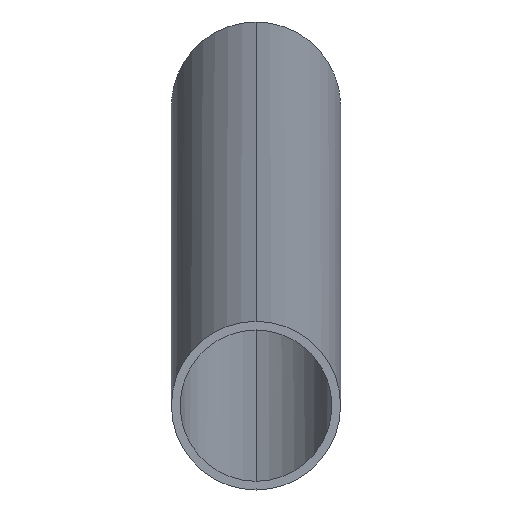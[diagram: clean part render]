
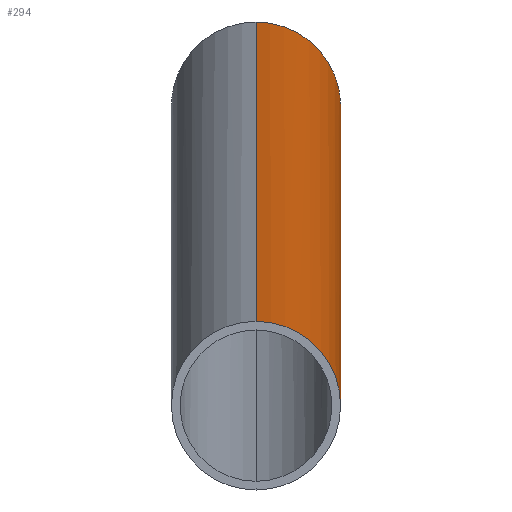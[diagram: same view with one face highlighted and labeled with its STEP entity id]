
A CAD part, top view. The second image highlights one B-rep face of the part: STEP entity #294.
In plain terms, the highlighted cylindrical face has radius 24.15 mm (diameter 48.3 mm), a partial arc.
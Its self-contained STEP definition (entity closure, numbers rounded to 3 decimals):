
#18 = CARTESIAN_POINT ( 'NONE',  ( 2845., 0., 2408.937 ) ) ;
#28 = ORIENTED_EDGE ( 'NONE', *, *, #274, .T. ) ;
#43 = EDGE_LOOP ( 'NONE', ( #333, #84, #529, #351, #28, #447, #81 ) ) ;
#45 = EDGE_CURVE ( 'NONE', #362, #106, #429, .T. ) ;
#47 = B_SPLINE_CURVE_WITH_KNOTS ( 'NONE', 3,
 ( #390, #61, #468, #104, #268, #430, #56, #515, #350, #343, #507, #140, #261, #67, #143, #228 ),
 .UNSPECIFIED., .F., .F.,
 ( 4, 2, 2, 2, 2, 2, 2, 4 ),
 ( 0.008, 0.01, 0.011, 0.012, 0.013, 0.014, 0.015, 0.016 ),
 .UNSPECIFIED. ) ;
#56 = CARTESIAN_POINT ( 'NONE',  ( 2868.899, 3.15, 2412.832 ) ) ;
#58 = DIRECTION ( 'NONE',  ( 0., 0.087, -0.996 ) ) ;
#60 = CARTESIAN_POINT ( 'NONE',  ( 2845., -24.058, 2406.832 ) ) ;
#61 = CARTESIAN_POINT ( 'NONE',  ( 2869.135, 0.623, 2413.937 ) ) ;
#67 = CARTESIAN_POINT ( 'NONE',  ( 2868.633, 4.897, 2409.994 ) ) ;
#81 = ORIENTED_EDGE ( 'NONE', *, *, #124, .F. ) ;
#84 = ORIENTED_EDGE ( 'NONE', *, *, #45, .T. ) ;
#85 = CARTESIAN_POINT ( 'NONE',  ( 2868.74, -4.622, 2410.875 ) ) ;
#86 = VERTEX_POINT ( 'NONE', #137 ) ;
#97 = LINE ( 'NONE', #425, #243 ) ;
#98 = CARTESIAN_POINT ( 'NONE',  ( 2868.627, -4.981, 2408.501 ) ) ;
#100 = CARTESIAN_POINT ( 'NONE',  ( 2868.999, -3.054, 2412.9 ) ) ;
#103 = DIRECTION ( 'NONE',  ( 0., 0.996, 0.087 ) ) ;
#104 = CARTESIAN_POINT ( 'NONE',  ( 2869.023, 2.104, 2413.483 ) ) ;
#105 = CIRCLE ( 'NONE', #317, 24.15 ) ;
#106 = VERTEX_POINT ( 'NONE', #60 ) ;
#120 = AXIS2_PLACEMENT_3D ( 'NONE', #127, #202, #534 ) ;
#124 = EDGE_CURVE ( 'NONE', #187, #86, #97, .T. ) ;
#127 = CARTESIAN_POINT ( 'NONE',  ( 2845., 0., 2408.937 ) ) ;
#133 = CARTESIAN_POINT ( 'NONE',  ( 2868.771, -4.478, 2411.187 ) ) ;
#137 = CARTESIAN_POINT ( 'NONE',  ( 2845., 24.058, 2411.042 ) ) ;
#140 = CARTESIAN_POINT ( 'NONE',  ( 2868.674, 4.619, 2410.877 ) ) ;
#143 = CARTESIAN_POINT ( 'NONE',  ( 2868.627, 4.954, 2409.684 ) ) ;
#147 = CARTESIAN_POINT ( 'NONE',  ( 2869.118, -1.703, 2413.651 ) ) ;
#176 = EDGE_CURVE ( 'NONE', #86, #239, #370, .T. ) ;
#180 = CARTESIAN_POINT ( 'NONE',  ( 2868.948, -3.448, 2412.562 ) ) ;
#182 = CARTESIAN_POINT ( 'NONE',  ( 2869.151, -0.692, 2413.901 ) ) ;
#184 = CARTESIAN_POINT ( 'NONE',  ( 2869.152, -0.349, 2413.937 ) ) ;
#187 = VERTEX_POINT ( 'NONE', #536 ) ;
#188 = DIRECTION ( 'NONE',  ( 0., 0.087, -0.996 ) ) ;
#194 = CARTESIAN_POINT ( 'NONE',  ( 2845., -111.214, 3403.027 ) ) ;
#202 = DIRECTION ( 'NONE',  ( 0., 0.087, -0.996 ) ) ;
#204 = CARTESIAN_POINT ( 'NONE',  ( 2868.877, -3.912, 2412.056 ) ) ;
#214 = CARTESIAN_POINT ( 'NONE',  ( 2845., -87.156, 3405.132 ) ) ;
#220 = EDGE_CURVE ( 'NONE', #254, #452, #378, .T. ) ;
#221 = CARTESIAN_POINT ( 'NONE',  ( 2868.627, 4.981, 2409.373 ) ) ;
#228 = CARTESIAN_POINT ( 'NONE',  ( 2868.627, 4.981, 2409.373 ) ) ;
#239 = VERTEX_POINT ( 'NONE', #221 ) ;
#243 = VECTOR ( 'NONE', #58, 1000. ) ;
#250 = CARTESIAN_POINT ( 'NONE',  ( 2868.634, -5.005, 2409.195 ) ) ;
#254 = VERTEX_POINT ( 'NONE', #98 ) ;
#261 = CARTESIAN_POINT ( 'NONE',  ( 2868.657, 4.729, 2410.59 ) ) ;
#262 = DIRECTION ( 'NONE',  ( 0., 0.087, -0.996 ) ) ;
#264 = CARTESIAN_POINT ( 'NONE',  ( 2869.146, 0., 2413.937 ) ) ;
#268 = CARTESIAN_POINT ( 'NONE',  ( 2868.994, 2.379, 2413.345 ) ) ;
#274 = EDGE_CURVE ( 'NONE', #452, #239, #47, .T. ) ;
#276 = CIRCLE ( 'NONE', #526, 24.15 ) ;
#294 = ADVANCED_FACE ( 'NONE', ( #347 ), #398, .T. ) ;
#297 = CARTESIAN_POINT ( 'NONE',  ( 2845., -111.214, 3403.027 ) ) ;
#306 = CARTESIAN_POINT ( 'NONE',  ( 2869.074, -2.334, 2413.372 ) ) ;
#317 = AXIS2_PLACEMENT_3D ( 'NONE', #18, #510, #103 ) ;
#329 = EDGE_CURVE ( 'NONE', #254, #106, #105, .T. ) ;
#333 = ORIENTED_EDGE ( 'NONE', *, *, #505, .T. ) ;
#341 = CARTESIAN_POINT ( 'NONE',  ( 2869.134, -1.367, 2413.759 ) ) ;
#343 = CARTESIAN_POINT ( 'NONE',  ( 2868.745, 4.181, 2411.697 ) ) ;
#347 = FACE_OUTER_BOUND ( 'NONE', #43, .T. ) ;
#350 = CARTESIAN_POINT ( 'NONE',  ( 2868.804, 3.811, 2412.189 ) ) ;
#351 = ORIENTED_EDGE ( 'NONE', *, *, #220, .T. ) ;
#353 = AXIS2_PLACEMENT_3D ( 'NONE', #466, #188, #424 ) ;
#362 = VERTEX_POINT ( 'NONE', #194 ) ;
#370 = CIRCLE ( 'NONE', #120, 24.15 ) ;
#374 = CARTESIAN_POINT ( 'NONE',  ( 2868.686, -4.844, 2410.222 ) ) ;
#376 = DIRECTION ( 'NONE',  ( 0., 0.996, 0.087 ) ) ;
#378 = B_SPLINE_CURVE_WITH_KNOTS ( 'NONE', 3,
 ( #450, #501, #250, #410, #374, #85, #133, #458, #412, #204, #421, #493, #180, #432, #100, #428, #306, #147, #341, #182, #184, #264 ),
 .UNSPECIFIED., .F., .F.,
 ( 4, 2, 2, 2, 2, 2, 2, 2, 2, 2, 4 ),
 ( 0., 0.001, 0.002, 0.003, 0.004, 0.004, 0.005, 0.005, 0.006, 0.007, 0.008 ),
 .UNSPECIFIED. ) ;
#390 = CARTESIAN_POINT ( 'NONE',  ( 2869.146, 0., 2413.937 ) ) ;
#398 = CYLINDRICAL_SURFACE ( 'NONE', #353, 24.15 ) ;
#410 = CARTESIAN_POINT ( 'NONE',  ( 2868.664, -4.922, 2409.879 ) ) ;
#412 = CARTESIAN_POINT ( 'NONE',  ( 2868.841, -4.117, 2411.779 ) ) ;
#421 = CARTESIAN_POINT ( 'NONE',  ( 2868.895, -3.802, 2412.188 ) ) ;
#424 = DIRECTION ( 'NONE',  ( 0., 0.996, 0.087 ) ) ;
#425 = CARTESIAN_POINT ( 'NONE',  ( 2845., -63.098, 3407.236 ) ) ;
#428 = CARTESIAN_POINT ( 'NONE',  ( 2869.047, -2.632, 2413.202 ) ) ;
#429 = LINE ( 'NONE', #297, #470 ) ;
#430 = CARTESIAN_POINT ( 'NONE',  ( 2868.932, 2.901, 2413.021 ) ) ;
#432 = CARTESIAN_POINT ( 'NONE',  ( 2868.983, -3.191, 2412.791 ) ) ;
#447 = ORIENTED_EDGE ( 'NONE', *, *, #176, .F. ) ;
#450 = CARTESIAN_POINT ( 'NONE',  ( 2868.627, -4.981, 2408.501 ) ) ;
#452 = VERTEX_POINT ( 'NONE', #473 ) ;
#458 = CARTESIAN_POINT ( 'NONE',  ( 2868.823, -4.214, 2411.634 ) ) ;
#466 = CARTESIAN_POINT ( 'NONE',  ( 2845., -87.156, 3405.132 ) ) ;
#468 = CARTESIAN_POINT ( 'NONE',  ( 2869.1, 1.236, 2413.821 ) ) ;
#470 = VECTOR ( 'NONE', #262, 1000. ) ;
#473 = CARTESIAN_POINT ( 'NONE',  ( 2869.146, 0., 2413.937 ) ) ;
#493 = CARTESIAN_POINT ( 'NONE',  ( 2868.93, -3.571, 2412.441 ) ) ;
#500 = DIRECTION ( 'NONE',  ( 0., 0.087, -0.996 ) ) ;
#501 = CARTESIAN_POINT ( 'NONE',  ( 2868.627, -5.011, 2408.85 ) ) ;
#505 = EDGE_CURVE ( 'NONE', #187, #362, #276, .T. ) ;
#507 = CARTESIAN_POINT ( 'NONE',  ( 2868.719, 4.345, 2411.43 ) ) ;
#510 = DIRECTION ( 'NONE',  ( 0., 0.087, -0.996 ) ) ;
#515 = CARTESIAN_POINT ( 'NONE',  ( 2868.835, 3.605, 2412.416 ) ) ;
#526 = AXIS2_PLACEMENT_3D ( 'NONE', #214, #500, #376 ) ;
#529 = ORIENTED_EDGE ( 'NONE', *, *, #329, .F. ) ;
#534 = DIRECTION ( 'NONE',  ( 0., 0.996, 0.087 ) ) ;
#536 = CARTESIAN_POINT ( 'NONE',  ( 2845., -63.098, 3407.236 ) ) ;
